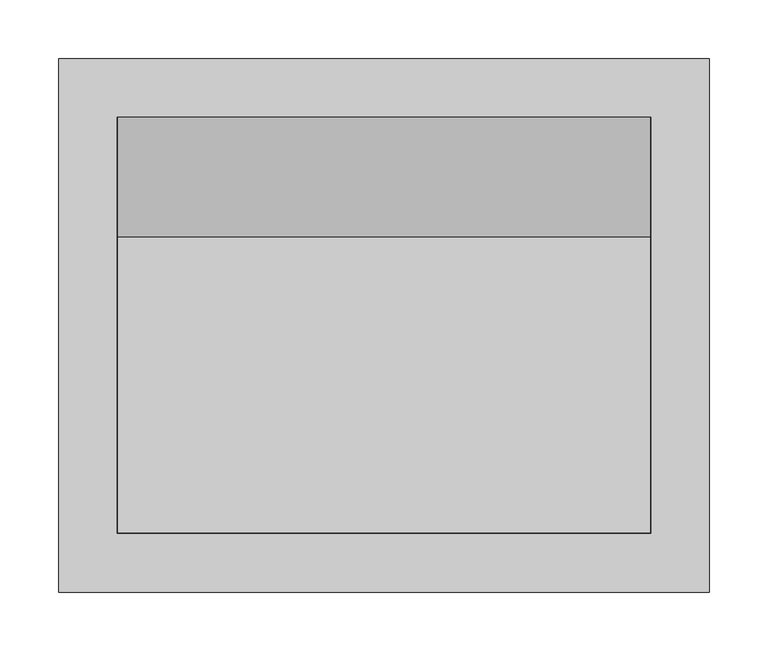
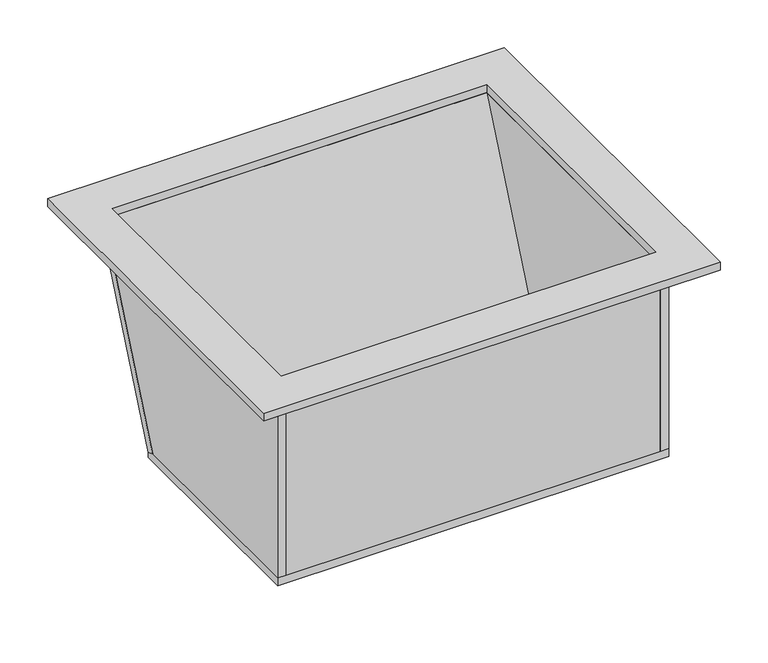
"""IFC4 building model written with IfcOpenShell, lengths in millimetres: flow terminal geometry, Sanitærutstyr Skyllekar : Middels."""

from ifc_helpers import new_model, si_unit, frame, origin, place, context, project, spatial, polyline, outline, extrude, source, transform, mapped, element, save


def flow_terminal_4f333d3f(model_context):
    return source(origin(), model_context, "Body", "SweptSolid", [
        extrude(outline(polyline([(0.0, -465.0), (0.0, 0.0), (10.0, 0.0), (10.0, -465.0), (0.0, -465.0)])), frame((321.9115658, 293.966546, 646.0994285), z_axis=(0.0, 0.3900571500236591, 0.9207906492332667), x_axis=(0.0, -0.9207906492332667, 0.3900571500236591)), (0.0, 0.0, 1.0), 260.6455661),
        extrude(outline(polyline([(-183.0884342, 436.4253061), (371.9115658, 436.4253061), (371.9115658, -18.5746939), (-183.0884342, -18.5746939), (-183.0884342, 436.4253061)]), holes=[polyline([(-133.0884342, 386.4253061), (-133.0884342, 31.4253061), (321.9115658, 31.4253061), (321.9115658, 386.4253061), (-133.0884342, 386.4253061)])]), frame((0.0, 0.0, 890.0), z_axis=(0.0, 0.0, 1.0), x_axis=(1.0, 0.0, 0.0)), (0.0, 0.0, 1.0), 10.0),
        extrude(outline(polyline([(386.4253061, 890.0), (284.7586395, 650.0), (21.4253061, 650.0), (21.4253061, 890.0), (386.4253061, 890.0)])), frame((-143.0884342, 0.0, 0.0), z_axis=(1.0, 0.0, 0.0), x_axis=(0.0, 1.0, 0.0)), (0.0, 0.0, 1.0), 10.0),
        extrude(outline(polyline([(386.4253061, 890.0), (284.7586395, 650.0), (21.4253061, 650.0), (21.4253061, 890.0), (386.4253061, 890.0)])), frame((321.9115658, 0.0, 0.0), z_axis=(1.0, 0.0, 0.0), x_axis=(0.0, 1.0, 0.0)), (0.0, 0.0, 1.0), 10.0),
        extrude(outline(polyline([(321.9115658, 31.4253061), (321.9115658, 21.4253061), (-133.0884342, 21.4253061), (-133.0884342, 31.4253061), (321.9115658, 31.4253061)])), frame((0.0, 0.0, 650.0), z_axis=(0.0, 0.0, 1.0), x_axis=(1.0, 0.0, 0.0)), (0.0, 0.0, 1.0), 240.0),
        extrude(outline(polyline([(331.9115658, 21.4253061), (-143.0884342, 21.4253061), (-143.0884342, 293.966546), (331.9115658, 293.966546), (331.9115658, 21.4253061)])), frame((0.0, 0.0, 640.0), z_axis=(0.0, 0.0, 1.0), x_axis=(1.0, 0.0, 0.0)), (0.0, 0.0, 1.0), 10.0),
    ])


if __name__ == "__main__":
    model = new_model("IFC4")
    model_context = context("Model", 3, world=origin())
    ifc_project = project(units=[si_unit("LENGTHUNIT", "METRE", prefix="MILLI")], contexts=[model_context])
    site = spatial("IfcSite", under=ifc_project)
    building = spatial("IfcBuilding", under=site)
    placement = place(None, origin())
    flow_terminal_shape = flow_terminal_4f333d3f(model_context)
    element("IfcFlowTerminal", 1, ObjectType="Sanitærutstyr Skyllekar : Middels", at=placement, inside=building, context=model_context, shape_type="MappedRepresentation", body=[
        mapped(flow_terminal_shape, transform((0.0, 0.0, 0.0), x_axis=(1.0, 0.0, 0.0), y_axis=(0.0, 1.0, 0.0), z_axis=(0.0, 0.0, 1.0))),
    ])
    save(model, "model.ifc")
